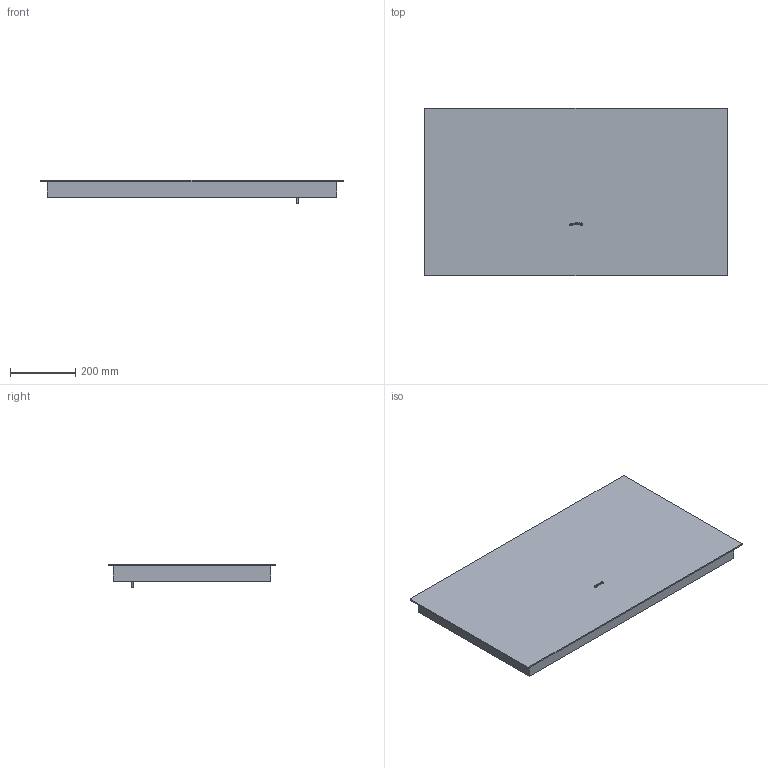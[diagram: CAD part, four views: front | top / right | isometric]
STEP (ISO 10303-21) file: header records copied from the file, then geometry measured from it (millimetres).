
FILE_DESCRIPTION(/* description */ (''),/* implementation_level */ '2;1');
FILE_NAME(/* name */ 'SIA1963D.stp',/* time_stamp */ '2021-08-31T09:18:00+02:00',/* author */ (''),/* organization */ (''),/* preprocessor_version */ 'ST-DEVELOPER v16',/* originating_system */ 'SIEMENS PLM Software NX 11.0',/* authorisation */ '');
FILE_SCHEMA (('AUTOMOTIVE_DESIGN { 1 0 10303 214 3 1 1 1 }'));
Length unit declared in the file: millimetre
Products named in the file (1): mart38E8DAB1oy9i
Bounding box: 930 x 515 x 72.1 mm (x, y, z)
Volume: 22503796.2 mm3; surface area: 1959606.8 mm2
Topology: 12 solids, 12 shells, 95 faces, 210 edges, 140 vertices
Faces by surface type: plane 59, cylinder 25, extrusion 11
Full cylindrical faces by diameter (mm): 3.37 x6, 6 x1
Entity records: 2928 total; most frequent: CARTESIAN_POINT 741, DIRECTION 410, ORIENTED_EDGE 404, EDGE_CURVE 202, VERTEX_POINT 140, VECTOR 140, AXIS2_PLACEMENT_3D 135, LINE 129
